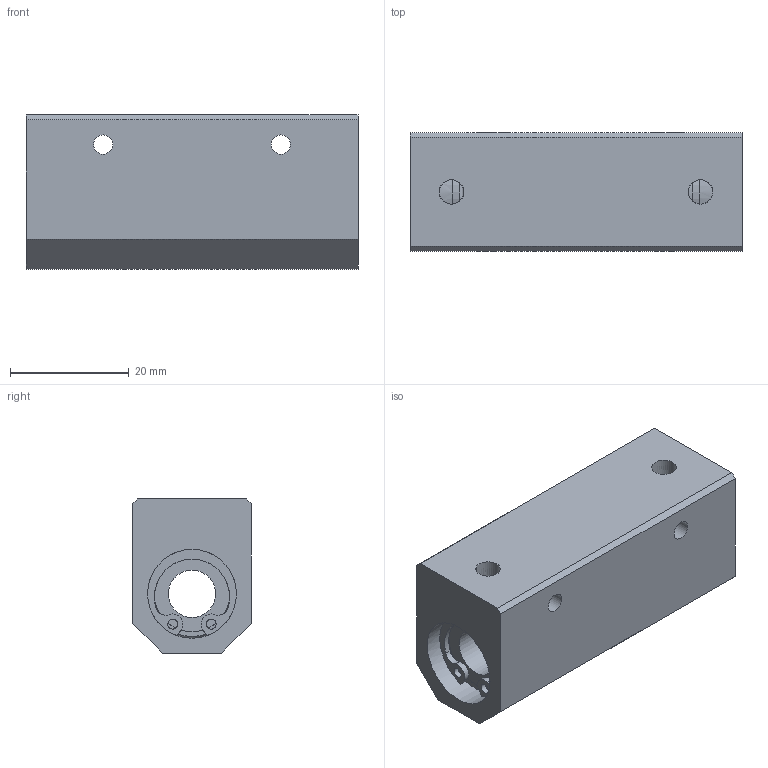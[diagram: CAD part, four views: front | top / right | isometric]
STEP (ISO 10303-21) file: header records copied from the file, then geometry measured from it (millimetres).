
FILE_DESCRIPTION((''),'2;1');
FILE_NAME('D:\製品 (図面)\カタログ用3D\リニアベアリング関連(改)\STEP形式\CHW\CHW8.stp','2010-01-25T09:39:01',('Tsuchiya'),(''),'Autodesk Inventor 10','Autodesk Inventor 10','');
FILE_SCHEMA(('AUTOMOTIVE_DESIGN { 1 0 10303 214 1 1 1 1 }'));
Length unit declared in the file: millimetre
Products named in the file (1): CHW8
Bounding box: 56 x 20 x 26 mm (x, y, z)
Volume: 23094.9 mm3; surface area: 8955.2 mm2
Topology: 1 solids, 4 shells, 92 faces, 222 edges, 137 vertices
Faces by surface type: bspline 41, plane 28, cylinder 21, torus 2
Full cylindrical faces by diameter (mm): 1.7 x2, 8 x1, 12.8 x2, 14.3 x2, 15 x5
Entity records: 2930 total; most frequent: CARTESIAN_POINT 992, DIRECTION 386, ORIENTED_EDGE 358, EDGE_CURVE 179, AXIS2_PLACEMENT_3D 165, EDGE_LOOP 148, VERTEX_POINT 123, CIRCLE 113
